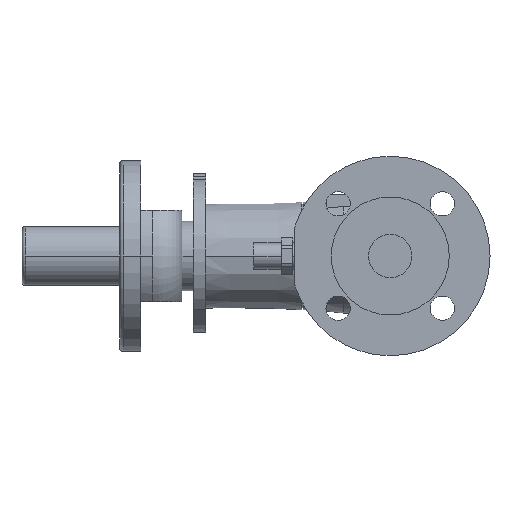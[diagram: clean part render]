
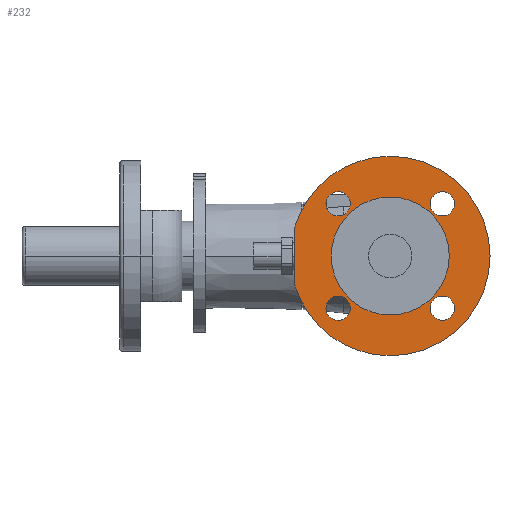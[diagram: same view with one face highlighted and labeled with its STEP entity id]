
A CAD part, left-side view. The second image highlights one B-rep face of the part: STEP entity #232.
In plain terms, the highlighted planar face has unit normal (-1, 0, 0).
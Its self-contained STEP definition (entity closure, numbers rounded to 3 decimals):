
#232 = ADVANCED_FACE( '', ( #586, #587, #588, #589, #590, #591 ), #592, .F. );
#586 = FACE_OUTER_BOUND( '', #953, .T. );
#587 = FACE_BOUND( '', #954, .T. );
#588 = FACE_BOUND( '', #955, .T. );
#589 = FACE_BOUND( '', #956, .T. );
#590 = FACE_BOUND( '', #957, .T. );
#591 = FACE_BOUND( '', #958, .T. );
#592 = PLANE( '', #959 );
#953 = EDGE_LOOP( '', ( #2278, #2279, #2280, #2281 ) );
#954 = EDGE_LOOP( '', ( #2282, #2283 ) );
#955 = EDGE_LOOP( '', ( #2284, #2285 ) );
#956 = EDGE_LOOP( '', ( #2286, #2287 ) );
#957 = EDGE_LOOP( '', ( #2288, #2289 ) );
#958 = EDGE_LOOP( '', ( #2290, #2291 ) );
#959 = AXIS2_PLACEMENT_3D( '', #2292, #2293, #2294 );
#2278 = ORIENTED_EDGE( '', *, *, #2754, .T. );
#2279 = ORIENTED_EDGE( '', *, *, #2774, .F. );
#2280 = ORIENTED_EDGE( '', *, *, #2354, .F. );
#2281 = ORIENTED_EDGE( '', *, *, #2351, .F. );
#2282 = ORIENTED_EDGE( '', *, *, #2775, .F. );
#2283 = ORIENTED_EDGE( '', *, *, #2370, .F. );
#2284 = ORIENTED_EDGE( '', *, *, #2776, .F. );
#2285 = ORIENTED_EDGE( '', *, *, #2366, .F. );
#2286 = ORIENTED_EDGE( '', *, *, #2777, .F. );
#2287 = ORIENTED_EDGE( '', *, *, #2362, .F. );
#2288 = ORIENTED_EDGE( '', *, *, #2778, .F. );
#2289 = ORIENTED_EDGE( '', *, *, #2358, .F. );
#2290 = ORIENTED_EDGE( '', *, *, #2779, .F. );
#2291 = ORIENTED_EDGE( '', *, *, #2345, .F. );
#2292 = CARTESIAN_POINT( '', ( 3., 0., 0. ) );
#2293 = DIRECTION( '', ( 1., 0., 0. ) );
#2294 = DIRECTION( '', ( 0., 0., -1. ) );
#2345 = EDGE_CURVE( '', #2781, #2784, #2785, .T. );
#2351 = EDGE_CURVE( '', #2794, #2789, #2796, .T. );
#2354 = EDGE_CURVE( '', #2789, #2798, #2801, .T. );
#2358 = EDGE_CURVE( '', #2807, #2803, #2809, .T. );
#2362 = EDGE_CURVE( '', #2815, #2811, #2817, .T. );
#2366 = EDGE_CURVE( '', #2823, #2819, #2825, .T. );
#2370 = EDGE_CURVE( '', #2831, #2827, #2833, .T. );
#2754 = EDGE_CURVE( '', #2794, #3473, #3476, .T. );
#2774 = EDGE_CURVE( '', #2798, #3473, #3502, .T. );
#2775 = EDGE_CURVE( '', #2827, #2831, #3503, .T. );
#2776 = EDGE_CURVE( '', #2819, #2823, #3504, .T. );
#2777 = EDGE_CURVE( '', #2811, #2815, #3505, .T. );
#2778 = EDGE_CURVE( '', #2803, #2807, #3506, .T. );
#2779 = EDGE_CURVE( '', #2784, #2781, #3507, .T. );
#2781 = VERTEX_POINT( '', #3509 );
#2784 = VERTEX_POINT( '', #3513 );
#2785 = CIRCLE( '', #3514, 34. );
#2789 = VERTEX_POINT( '', #3519 );
#2794 = VERTEX_POINT( '', #3525 );
#2796 = CIRCLE( '', #3528, 57.5 );
#2798 = VERTEX_POINT( '', #3530 );
#2801 = CIRCLE( '', #3534, 57.5 );
#2803 = VERTEX_POINT( '', #3536 );
#2807 = VERTEX_POINT( '', #3541 );
#2809 = CIRCLE( '', #3544, 7. );
#2811 = VERTEX_POINT( '', #3546 );
#2815 = VERTEX_POINT( '', #3551 );
#2817 = CIRCLE( '', #3554, 7. );
#2819 = VERTEX_POINT( '', #3556 );
#2823 = VERTEX_POINT( '', #3561 );
#2825 = CIRCLE( '', #3564, 7. );
#2827 = VERTEX_POINT( '', #3566 );
#2831 = VERTEX_POINT( '', #3571 );
#2833 = CIRCLE( '', #3574, 7. );
#3473 = VERTEX_POINT( '', #5362 );
#3476 = LINE( '', #5366, #5367 );
#3502 = CIRCLE( '', #5455, 57.5 );
#3503 = CIRCLE( '', #5456, 7. );
#3504 = CIRCLE( '', #5457, 7. );
#3505 = CIRCLE( '', #5458, 7. );
#3506 = CIRCLE( '', #5459, 7. );
#3507 = CIRCLE( '', #5460, 34. );
#3509 = CARTESIAN_POINT( '', ( 3., 34., 0. ) );
#3513 = CARTESIAN_POINT( '', ( 3., -34., 0. ) );
#3514 = AXIS2_PLACEMENT_3D( '', #5463, #5464, #5465 );
#3519 = CARTESIAN_POINT( '', ( 3., 0., 57.5 ) );
#3525 = CARTESIAN_POINT( '', ( 3., 55.029, 16.675 ) );
#3528 = AXIS2_PLACEMENT_3D( '', #5475, #5476, #5477 );
#3530 = CARTESIAN_POINT( '', ( 3., 0., -57.5 ) );
#3534 = AXIS2_PLACEMENT_3D( '', #5482, #5483, #5484 );
#3536 = CARTESIAN_POINT( '', ( 3., 30.052, -37.052 ) );
#3541 = CARTESIAN_POINT( '', ( 3., 30.052, -23.052 ) );
#3544 = AXIS2_PLACEMENT_3D( '', #5490, #5491, #5492 );
#3546 = CARTESIAN_POINT( '', ( 3., -30.052, -37.052 ) );
#3551 = CARTESIAN_POINT( '', ( 3., -30.052, -23.052 ) );
#3554 = AXIS2_PLACEMENT_3D( '', #5498, #5499, #5500 );
#3556 = CARTESIAN_POINT( '', ( 3., 30.052, 23.052 ) );
#3561 = CARTESIAN_POINT( '', ( 3., 30.052, 37.052 ) );
#3564 = AXIS2_PLACEMENT_3D( '', #5506, #5507, #5508 );
#3566 = CARTESIAN_POINT( '', ( 3., -30.052, 23.052 ) );
#3571 = CARTESIAN_POINT( '', ( 3., -30.052, 37.052 ) );
#3574 = AXIS2_PLACEMENT_3D( '', #5514, #5515, #5516 );
#5362 = CARTESIAN_POINT( '', ( 3., 55.029, -16.675 ) );
#5366 = CARTESIAN_POINT( '', ( 3., 55.029, -12.5 ) );
#5367 = VECTOR( '', #6247, 1. );
#5455 = AXIS2_PLACEMENT_3D( '', #6284, #6285, #6286 );
#5456 = AXIS2_PLACEMENT_3D( '', #6287, #6288, #6289 );
#5457 = AXIS2_PLACEMENT_3D( '', #6290, #6291, #6292 );
#5458 = AXIS2_PLACEMENT_3D( '', #6293, #6294, #6295 );
#5459 = AXIS2_PLACEMENT_3D( '', #6296, #6297, #6298 );
#5460 = AXIS2_PLACEMENT_3D( '', #6299, #6300, #6301 );
#5463 = CARTESIAN_POINT( '', ( 3., 0., 0. ) );
#5464 = DIRECTION( '', ( -1., 0., 0. ) );
#5465 = DIRECTION( '', ( 0., 1., 0. ) );
#5475 = CARTESIAN_POINT( '', ( 3., 0., 0. ) );
#5476 = DIRECTION( '', ( 1., 0., 0. ) );
#5477 = DIRECTION( '', ( 0., 0., -1. ) );
#5482 = CARTESIAN_POINT( '', ( 3., 0., 0. ) );
#5483 = DIRECTION( '', ( 1., 0., 0. ) );
#5484 = DIRECTION( '', ( 0., 0., -1. ) );
#5490 = CARTESIAN_POINT( '', ( 3., 30.052, -30.052 ) );
#5491 = DIRECTION( '', ( -1., 0., 0. ) );
#5492 = DIRECTION( '', ( 0., 0., -1. ) );
#5498 = CARTESIAN_POINT( '', ( 3., -30.052, -30.052 ) );
#5499 = DIRECTION( '', ( -1., 0., 0. ) );
#5500 = DIRECTION( '', ( 0., 0., -1. ) );
#5506 = CARTESIAN_POINT( '', ( 3., 30.052, 30.052 ) );
#5507 = DIRECTION( '', ( -1., 0., 0. ) );
#5508 = DIRECTION( '', ( 0., 0., -1. ) );
#5514 = CARTESIAN_POINT( '', ( 3., -30.052, 30.052 ) );
#5515 = DIRECTION( '', ( -1., 0., 0. ) );
#5516 = DIRECTION( '', ( 0., 0., -1. ) );
#6247 = DIRECTION( '', ( 0., 0., -1. ) );
#6284 = CARTESIAN_POINT( '', ( 3., 0., 0. ) );
#6285 = DIRECTION( '', ( 1., 0., 0. ) );
#6286 = DIRECTION( '', ( 0., 0., -1. ) );
#6287 = CARTESIAN_POINT( '', ( 3., -30.052, 30.052 ) );
#6288 = DIRECTION( '', ( -1., 0., 0. ) );
#6289 = DIRECTION( '', ( 0., 0., -1. ) );
#6290 = CARTESIAN_POINT( '', ( 3., 30.052, 30.052 ) );
#6291 = DIRECTION( '', ( -1., 0., 0. ) );
#6292 = DIRECTION( '', ( 0., 0., -1. ) );
#6293 = CARTESIAN_POINT( '', ( 3., -30.052, -30.052 ) );
#6294 = DIRECTION( '', ( -1., 0., 0. ) );
#6295 = DIRECTION( '', ( 0., 0., -1. ) );
#6296 = CARTESIAN_POINT( '', ( 3., 30.052, -30.052 ) );
#6297 = DIRECTION( '', ( -1., 0., 0. ) );
#6298 = DIRECTION( '', ( 0., 0., -1. ) );
#6299 = CARTESIAN_POINT( '', ( 3., 0., 0. ) );
#6300 = DIRECTION( '', ( -1., 0., 0. ) );
#6301 = DIRECTION( '', ( 0., 1., 0. ) );
